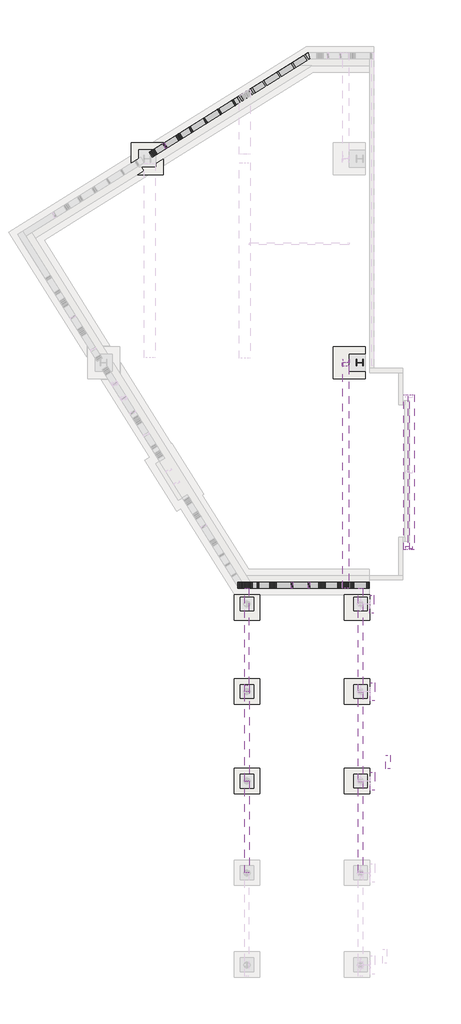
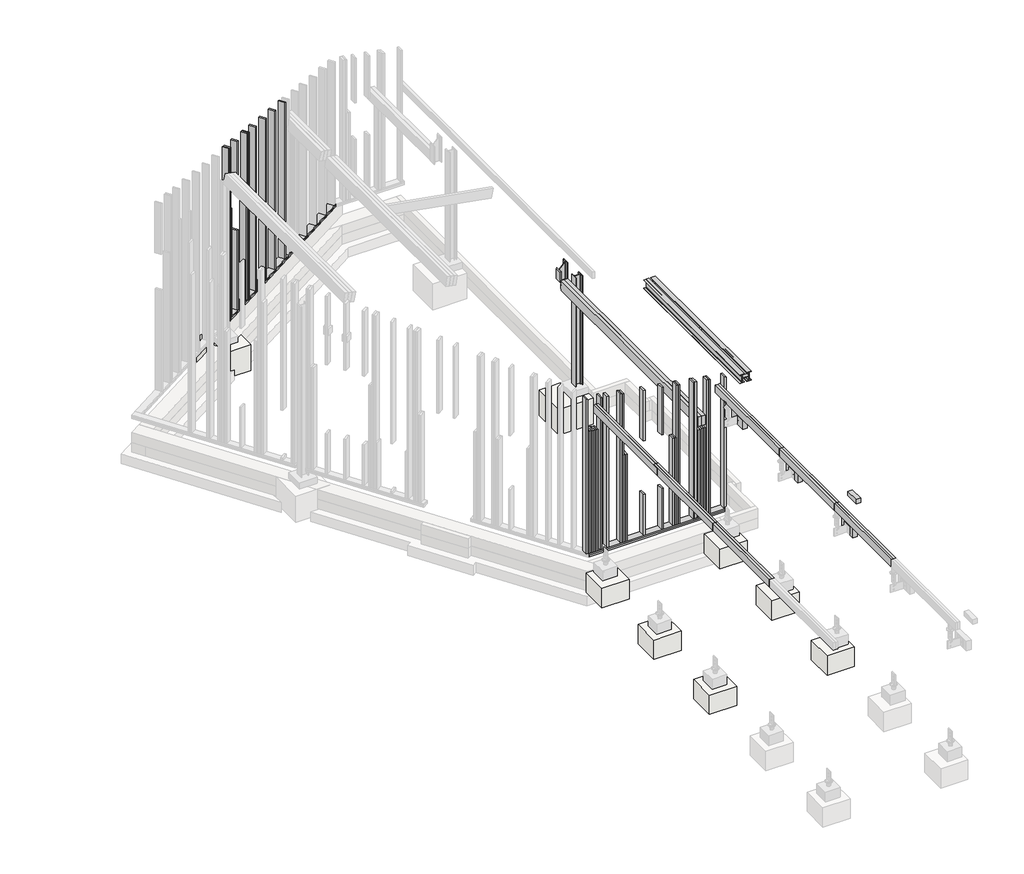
# One storey, part 3 of 4: 44 columns, 18 beams, 10 fasteners, 8 slabs.
"""IFC4 building model written with IfcOpenShell, lengths in millimetres."""

from ifc_helpers import new_model, si_unit, frame, origin, place, context, project, spatial, polyline, circle_curve, ellipse_curve, outline, extrude, faceted_brep, transform, mapped, element, save
from ifc_brep_helpers import plane_surface, revolved_surface, advanced_brep
from components import beam_100x100_20a64efb, beam_2no_50_x_175_2_x_50x175_2b7af52e, beam_2no_50_x_175_2_x_50x175_784defc4, beam_2no_50_x_175_2_x_50x175_441c8b70, beam_2no_50_x_175_2_x_50x175_f7083317, beam_2no_50_x_175_2_x_50x175_e2079f5a, beam_2no_50_x_175_2_x_50x175_51455c39, beam_38x140_6bea360a, chs_circular_hollow_sections_chs60_3x3_2_c089d770, ukb203x102x23_04439e79, ukc152x152x37_75c2c72e, column_base_plate_4_hole_ed_15mm_62b327aa, column_base_plate_4_hole_ed_15mm_4bd3c540, m_anchor_rod_with_anchor_plate_m_anchor_rod_with_anchor_bff3a3cc

model = new_model("IFC4")

# Units and contexts
model_context = context("Model", 3, world=origin())
ifc_project = project(units=[si_unit("LENGTHUNIT", "METRE", prefix="MILLI")], contexts=[model_context])

# Site, building, storey
site = spatial("IfcSite", under=ifc_project)
building = spatial("IfcBuilding", under=site)
storey = spatial("IfcBuildingStorey", under=building, Name="Ground Floor Plan Showing Foundations", Elevation=-93.0)

# Beams
placement = place(None, origin())
beam_100x100_shape = beam_100x100_20a64efb(model_context)
element("IfcBeam", 1, ObjectType="Graded Timber : 100x100", at=placement, inside=storey, context=model_context, shape_type="MappedRepresentation", body=[
    mapped(beam_100x100_shape, transform((-28447.9371107, 1648.5937113, 2897.0), x_axis=(0.0, 1.0, 0.0), y_axis=(-1.0, 0.0, 0.0), z_axis=(0.0, 0.0, 1.0))),
])
element("IfcBeam", 2, ObjectType="Graded Timber - 2No : 2 x 75x225", at=placement, inside=storey, context=model_context, shape_type="SweptSolid", body=[
    extrude(outline(polyline([(5737.2250167, 2427.0), (5737.2250167, 2647.0), (10976.6017132, 2647.0), (10976.6017132, 2612.0), (10954.6549517, 2612.0), (10954.6549517, 2560.5), (10976.6017132, 2560.5), (10976.6017132, 2461.7), (10954.6549517, 2461.7), (10954.6549517, 2427.0), (5737.2250167, 2427.0)])), frame((-29441.9371106, 0.0, 0.0), z_axis=(1.0, 0.0, 0.0), x_axis=(0.0, 1.0, 0.0)), (0.0, 0.0, 1.0), 75.0),
    extrude(outline(polyline([(5737.2250167, 2427.0), (5737.2250167, 2647.0), (10976.6017132, 2647.0), (10976.6017132, 2612.0), (10954.6549517, 2612.0), (10954.6549517, 2560.5), (10976.6017132, 2560.5), (10976.6017132, 2461.7), (10954.6549517, 2461.7), (10954.6549517, 2427.0), (5737.2250167, 2427.0)])), frame((-29516.9371106, 0.0, 0.0), z_axis=(1.0, 0.0, 0.0), x_axis=(0.0, 1.0, 0.0)), (0.0, 0.0, 1.0), 75.0),
])
beam_2no_50_x_175_2_x_50x175_shape = beam_2no_50_x_175_2_x_50x175_2b7af52e(model_context)
element("IfcBeam", 3, ObjectType="2No 50 x 175 : 2 x 50x175", at=placement, inside=storey, context=model_context, shape_type="MappedRepresentation", body=[
    mapped(beam_2no_50_x_175_2_x_50x175_shape, transform((-29067.1341292, 4329.1414041, 3177.0), x_axis=(0.0, -1.0, 0.0), y_axis=(1.0, 0.0, 0.0), z_axis=(0.0, 0.0, 1.0))),
])
beam_2no_50_x_175_2_x_50x175_2_shape = beam_2no_50_x_175_2_x_50x175_784defc4(model_context)
element("IfcBeam", 4, ObjectType="2No 50 x 175 : 2 x 50x175", at=placement, inside=storey, context=model_context, shape_type="MappedRepresentation", body=[
    mapped(beam_2no_50_x_175_2_x_50x175_2_shape, transform((-29067.1341292, 2250.2552931, 3177.0), x_axis=(0.0, -1.0, 0.0), y_axis=(1.0, 0.0, 0.0), z_axis=(0.0, 0.0, 1.0))),
])
beam_2no_50_x_175_2_x_50x175_3_shape = beam_2no_50_x_175_2_x_50x175_441c8b70(model_context)
element("IfcBeam", 5, ObjectType="2No 50 x 175 : 2 x 50x175", at=placement, inside=storey, context=model_context, shape_type="MappedRepresentation", body=[
    mapped(beam_2no_50_x_175_2_x_50x175_3_shape, transform((-29067.1341292, 123.869182, 3177.0), x_axis=(0.0, -1.0, 0.0), y_axis=(1.0, 0.0, 0.0), z_axis=(0.0, 0.0, 1.0))),
])
beam_2no_50_x_175_2_x_50x175_4_shape = beam_2no_50_x_175_2_x_50x175_f7083317(model_context)
element("IfcBeam", 6, ObjectType="2No 50 x 175 : 2 x 50x175", at=placement, inside=storey, context=model_context, shape_type="MappedRepresentation", body=[
    mapped(beam_2no_50_x_175_2_x_50x175_4_shape, transform((-31746.4559584, 4334.8226337, 3652.0), x_axis=(0.0, -1.0, 0.0), y_axis=(1.0, 0.0, 0.0), z_axis=(0.0, 0.0, 1.0))),
])
beam_2no_50_x_175_2_x_50x175_5_shape = beam_2no_50_x_175_2_x_50x175_e2079f5a(model_context)
element("IfcBeam", 7, ObjectType="2No 50 x 175 : 2 x 50x175", at=placement, inside=storey, context=model_context, shape_type="MappedRepresentation", body=[
    mapped(beam_2no_50_x_175_2_x_50x175_5_shape, transform((-31744.9559584, 2250.7376651, 3652.0), x_axis=(0.0, -1.0, 0.0), y_axis=(1.0, 0.0, 0.0), z_axis=(0.0, 0.0, 1.0))),
])
beam_2no_50_x_175_2_x_50x175_6_shape = beam_2no_50_x_175_2_x_50x175_51455c39(model_context)
element("IfcBeam", 8, ObjectType="2No 50 x 175 : 2 x 50x175", at=placement, inside=storey, context=model_context, shape_type="MappedRepresentation", body=[
    mapped(beam_2no_50_x_175_2_x_50x175_6_shape, transform((-31744.9559584, 116.6526965, 3652.0), x_axis=(0.0, -1.0, 0.0), y_axis=(1.0, 0.0, 0.0), z_axis=(0.0, 0.0, 1.0))),
])
element("IfcBeam", 9, ObjectType="Graded Timber : 38x140", at=placement, inside=storey, context=model_context, shape_type="SweptSolid", body=[
    extrude(outline(polyline([(-31943.5943838, 5736.5605791), (-31943.5943838, 5876.5605791), (-28887.9560255, 5876.5605791), (-28887.9560255, 5736.5605791), (-31943.5943838, 5736.5605791)])), frame((0.0, 0.0, 280.0), z_axis=(0.0, 0.0, 1.0), x_axis=(1.0, 0.0, 0.0)), (0.0, 0.0, 1.0), 38.0),
])
element("IfcBeam", 10, ObjectType="Graded Timber : 38x140", at=placement, inside=storey, context=model_context, shape_type="SweptSolid", body=[
    extrude(outline(polyline([(-31921.5857524, 5736.5605791), (-31921.5857524, 5876.5605791), (-28887.9739983, 5876.5605791), (-28887.9739983, 5736.5605791), (-31921.5857524, 5736.5605791)])), frame((0.0, 0.0, 242.0), z_axis=(0.0, 0.0, 1.0), x_axis=(1.0, 0.0, 0.0)), (0.0, 0.0, 1.0), 38.0),
])
element("IfcBeam", 11, ObjectType="Graded Timber : 38x140", at=placement, inside=storey, context=model_context, shape_type="Brep", body=[
    faceted_brep([(-33999.0412, 15889.7907502, 280.0), (-33999.0412, 15889.7907502, 318.0), (-34073.2292149, 16008.5179098, 318.0), (-34073.2292149, 16008.5179098, 280.0), (-30290.146325, 18207.3358606, 280.0), (-30290.146325, 18207.3358606, 318.0), (-30330.3164018, 18347.3279291, 318.0), (-30330.3126207, 18347.3218781, 280.0)], [[[0, 1, 2, 3]], [[1, 0, 4, 5]], [[2, 1, 5, 6]], [[3, 2, 6, 7]], [[0, 3, 7, 4]], [[5, 4, 7, 6]]]),
])
beam_38x140_shape = beam_38x140_6bea360a(model_context)
element("IfcBeam", 12, ObjectType="Graded Timber : 38x140", at=placement, inside=storey, context=model_context, shape_type="MappedRepresentation", body=[
    mapped(beam_38x140_shape, transform((-32163.9321424, 17119.0216909, 261.0), x_axis=(-0.8480511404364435, -0.5299143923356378, 0.0), y_axis=(0.0, 0.0, -1.0000000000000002), z_axis=(0.5299143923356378, -0.8480511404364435, 0.0))),
])
chs_circular_hollow_sections_chs60_3x3_2_shape = chs_circular_hollow_sections_chs60_3x3_2_c089d770(model_context)
element("IfcBeam", 13, ObjectType="CHS-Circular Hollow Sections : CHS60.3x3.2", at=placement, inside=storey, context=model_context, shape_type="MappedRepresentation", body=[
    mapped(chs_circular_hollow_sections_chs60_3x3_2_shape, transform((-27953.1871107, 6694.5605669, 2470.0), x_axis=(-1.0, 0.0, 0.0), y_axis=(0.0, -1.0, 0.0), z_axis=(0.0, 0.0, 1.0))),
])
element("IfcBeam", 14, ObjectType="Concrete-Rectangular Beam : 215 x 100mm", at=placement, inside=storey, context=model_context, shape_type="Brep", body=[
    faceted_brep([(-28862.9371107, 1407.544955, 2707.0), (-28762.9371107, 1407.544955, 2707.0), (-28762.9371107, 1407.544955, 2492.0), (-28862.9371107, 1407.544955, 2492.0), (-28862.9371107, 980.2449557, 2707.0), (-28862.9371107, 980.2449557, 2492.0), (-28762.9371107, 980.2449557, 2492.0), (-28762.9371107, 980.2449557, 2707.0), (-28862.9371107, 1198.5937113, 2492.0)], [[[0, 1, 2, 3]], [[4, 5, 6, 7]], [[1, 0, 4, 7]], [[2, 1, 7, 6]], [[3, 2, 6, 5, 8]], [[0, 3, 8, 5, 4]]]),
])
element("IfcBeam", 15, ObjectType="Concrete-Rectangular Beam : 215 x 100mm", at=placement, inside=storey, context=model_context, shape_type="SweptSolid", body=[
    extrude(outline(polyline([(-28877.9371107, 5575.2366997), (-28777.9371107, 5575.2366997), (-28777.9371107, 5147.9367003), (-28877.9371107, 5147.9367003), (-28877.9371107, 5575.2366997)])), frame((0.0, 0.0, 2492.0), z_axis=(0.0, 0.0, 1.0), x_axis=(1.0, 0.0, 0.0)), (0.0, 0.0, 1.0), 215.0),
])
element("IfcBeam", 16, ObjectType="Concrete-Rectangular Beam : 215 x 100mm", at=placement, inside=storey, context=model_context, shape_type="SweptSolid", body=[
    extrude(outline(polyline([(-28862.9371107, 3514.9776319), (-28762.9371107, 3514.9776319), (-28762.9371107, 3087.6776325), (-28862.9371107, 3087.6776325), (-28862.9371107, 3514.9776319)])), frame((0.0, 0.0, 2492.0), z_axis=(0.0, 0.0, 1.0), x_axis=(1.0, 0.0, 0.0)), (0.0, 0.0, 1.0), 215.0),
])
ukb203x102x23_shape = ukb203x102x23_04439e79(model_context)
element("IfcBeam", 17, ObjectType="UKB-UK Beams : UKB203x102x23", at=placement, inside=storey, context=model_context, shape_type="MappedRepresentation", body=[
    mapped(ukb203x102x23_shape, transform((-28028.1871107, 8474.5605669, 2470.0), x_axis=(0.0, -1.0, 0.0), y_axis=(1.0, 0.0, 0.0), z_axis=(0.0, 0.0, 1.0))),
])
element("IfcBeam", 18, ObjectType="UKB-UK Beams : UKB203x102x23", at=placement, inside=storey, context=model_context, shape_type="MappedRepresentation", body=[
    mapped(ukb203x102x23_shape, transform((-27878.1871107, 8474.5605669, 2470.0), x_axis=(0.0, -1.0, 0.0), y_axis=(1.0, 0.0, 0.0), z_axis=(0.0, 0.0, 1.0))),
])

# Columns
element("IfcColumn", 19, ObjectType="Timber : 38x140", at=placement, inside=storey, context=model_context, shape_type="Brep", body=[
    faceted_brep([(-32430.6953985, 17034.8738307, 318.0), (-32356.5073836, 16916.146671, 318.0), (-32388.7333269, 16896.0099241, 318.0), (-32462.9213419, 17014.7370838, 318.0), (-32356.5073836, 16916.146671, 4004.5955427), (-32430.6953985, 17034.8738307, 4004.5954221), (-32388.7333269, 16896.0099241, 4010.2778256), (-32462.9213419, 17014.7370838, 4010.277705)], [[[0, 1, 2, 3]], [[4, 1, 0, 5]], [[6, 2, 1, 4]], [[7, 3, 2, 6]], [[5, 0, 3, 7]], [[4, 5, 7, 6]]]),
])
element("IfcColumn", 20, ObjectType="Timber : 38x140", at=placement, inside=storey, context=model_context, shape_type="Brep", body=[
    faceted_brep([(-32769.9158547, 16822.9080738, 318.0), (-32695.7278398, 16704.1809141, 318.0), (-32727.9537831, 16684.0441672, 318.0), (-32802.141798, 16802.7713269, 318.0), (-32695.7278398, 16704.1809141, 4064.4090468), (-32769.9158547, 16822.9080738, 4064.4089262), (-32727.9537831, 16684.0441672, 4070.0913297), (-32802.141798, 16802.7713269, 4070.0912091)], [[[0, 1, 2, 3]], [[4, 1, 0, 5]], [[6, 2, 1, 4]], [[7, 3, 2, 6]], [[5, 0, 3, 7]], [[4, 5, 7, 6]]]),
])
element("IfcColumn", 21, ObjectType="Timber : 38x140", at=placement, inside=storey, context=model_context, shape_type="Brep", body=[
    faceted_brep([(-33109.1363109, 16610.9423168, 318.0), (-33034.9482959, 16492.2151572, 318.0), (-33067.1742393, 16472.0784103, 318.0), (-33141.3622542, 16590.8055699, 318.0), (-33034.9482959, 16492.2151572, 4124.2225509), (-33109.1363109, 16610.9423168, 4124.2224303), (-33067.1742393, 16472.0784103, 4129.9048338), (-33141.3622542, 16590.8055699, 4129.9047132)], [[[0, 1, 2, 3]], [[4, 1, 0, 5]], [[6, 2, 1, 4]], [[7, 3, 2, 6]], [[5, 0, 3, 7]], [[4, 5, 7, 6]]]),
])
element("IfcColumn", 22, ObjectType="Timber : 38x140", at=placement, inside=storey, context=model_context, shape_type="Brep", body=[
    faceted_brep([(-33349.8908326, 16460.5049067, 318.0), (-33275.7028177, 16341.777747, 318.0), (-33307.9287611, 16321.6410001, 318.0), (-33382.116776, 16440.3681598, 318.0), (-33275.7028177, 16341.777747, 4166.673854), (-33349.8908326, 16460.5049067, 4166.6737334), (-33307.9287611, 16321.6410001, 4172.3561369), (-33382.116776, 16440.3681598, 4172.3560163)], [[[0, 1, 2, 3]], [[4, 1, 0, 5]], [[6, 2, 1, 4]], [[7, 3, 2, 6]], [[5, 0, 3, 7]], [[4, 5, 7, 6]]]),
])
element("IfcColumn", 23, ObjectType="Timber : 38x140", at=placement, inside=storey, context=model_context, shape_type="SweptSolid", body=[
    extrude(outline(polyline([(3376.9946304, -28944.4371265), (318.0, -28944.4371265), (318.0, -28906.4371265), (3370.2942052, -28906.4371265), (3376.9946304, -28944.4371265)])), frame((0.0, 5736.5605791, 0.0), z_axis=(0.0, 1.0, 0.0), x_axis=(0.0, 0.0, 1.0)), (0.0, 0.0, 1.0), 140.0),
])
element("IfcColumn", 24, ObjectType="Timber : 38x140", at=placement, inside=storey, context=model_context, shape_type="SweptSolid", body=[
    extrude(outline(polyline([(-30040.9371107, 5876.5605791), (-30040.9371107, 5736.5605791), (-30078.9371107, 5736.5605791), (-30078.9371107, 5876.5605791), (-30040.9371107, 5876.5605791)])), frame((0.0, 0.0, 318.0), z_axis=(0.0, 0.0, 1.0), x_axis=(1.0, 0.0, 0.0)), (0.0, 0.0, 1.0), 2024.0),
])
element("IfcColumn", 25, ObjectType="Timber : 38x140", at=placement, inside=storey, context=model_context, shape_type="SweptSolid", body=[
    extrude(outline(polyline([(3620.8052084, -30327.155625), (2517.0, -30327.155625), (2517.0, -30289.155625), (3614.1047832, -30289.155625), (3620.8052084, -30327.155625)])), frame((0.0, 5736.5605791, 0.0), z_axis=(0.0, 1.0, 0.0), x_axis=(0.0, 0.0, 1.0)), (0.0, 0.0, 1.0), 140.0),
])
element("IfcColumn", 26, ObjectType="Timber : 38x140", at=placement, inside=storey, context=model_context, shape_type="SweptSolid", body=[
    extrude(outline(polyline([(3691.3360007, -30727.155625), (2517.0, -30727.155625), (2517.0, -30689.155625), (3684.6355755, -30689.155625), (3691.3360007, -30727.155625)])), frame((0.0, 5736.5605791, 0.0), z_axis=(0.0, 1.0, 0.0), x_axis=(0.0, 0.0, 1.0)), (0.0, 0.0, 1.0), 140.0),
])
element("IfcColumn", 27, ObjectType="Timber : 38x140", at=placement, inside=storey, context=model_context, shape_type="SweptSolid", body=[
    extrude(outline(polyline([(-31078.9371107, 5876.5605791), (-31078.9371107, 5736.5605791), (-31116.9371107, 5736.5605791), (-31116.9371107, 5876.5605791), (-31078.9371107, 5876.5605791)])), frame((0.0, 0.0, 318.0), z_axis=(0.0, 0.0, 1.0), x_axis=(1.0, 0.0, 0.0)), (0.0, 0.0, 1.0), 2024.0),
])
element("IfcColumn", 28, ObjectType="Timber : 38x140", at=placement, inside=storey, context=model_context, shape_type="SweptSolid", body=[
    extrude(outline(polyline([(3832.3975853, -31527.155625), (318.0, -31527.155625), (318.0, -31489.155625), (3825.69716, -31489.155625), (3832.3975853, -31527.155625)])), frame((0.0, 5736.5605791, 0.0), z_axis=(0.0, 1.0, 0.0), x_axis=(0.0, 0.0, 1.0)), (0.0, 0.0, 1.0), 140.0),
])
element("IfcColumn", 29, ObjectType="Timber : 38x140", at=placement, inside=storey, context=model_context, shape_type="SweptSolid", body=[
    extrude(outline(polyline([(3143.9301594, -31790.6015169), (318.0, -31790.6015169), (318.0, -31752.6015169), (3137.2298883, -31752.6015169), (3143.9301594, -31790.6015169)])), frame((0.0, 5736.5605791, 0.0), z_axis=(0.0, 1.0, 0.0), x_axis=(0.0, 0.0, 1.0)), (0.0, 0.0, 1.0), 140.0),
])
element("IfcColumn", 30, ObjectType="Timber : 38x140", at=placement, inside=storey, context=model_context, shape_type="SweptSolid", body=[
    extrude(outline(polyline([(3170.7312439, -31942.6015169), (318.0, -31942.6015169), (318.0, -31904.6015169), (3164.0309728, -31904.6015169), (3170.7312439, -31942.6015169)])), frame((0.0, 5736.5605791, 0.0), z_axis=(0.0, 1.0, 0.0), x_axis=(0.0, 0.0, 1.0)), (0.0, 0.0, 1.0), 140.0),
])
element("IfcColumn", 31, ObjectType="Timber : 38x140", at=placement, inside=storey, context=model_context, shape_type="SweptSolid", body=[
    extrude(outline(polyline([(-30689.155625, 5876.5605791), (-30689.155625, 5736.5605791), (-30727.155625, 5736.5605791), (-30727.155625, 5876.5605791), (-30689.155625, 5876.5605791)])), frame((0.0, 0.0, 318.0), z_axis=(0.0, 0.0, 1.0), x_axis=(1.0, 0.0, 0.0)), (0.0, 0.0, 1.0), 948.0),
])
element("IfcColumn", 32, ObjectType="Timber : 38x140", at=placement, inside=storey, context=model_context, shape_type="SweptSolid", body=[
    extrude(outline(polyline([(-30289.155625, 5876.5605791), (-30289.155625, 5736.5605791), (-30327.155625, 5736.5605791), (-30327.155625, 5876.5605791), (-30289.155625, 5876.5605791)])), frame((0.0, 0.0, 318.0), z_axis=(0.0, 0.0, 1.0), x_axis=(1.0, 0.0, 0.0)), (0.0, 0.0, 1.0), 948.0),
])
element("IfcColumn", 33, ObjectType="Timber : 38x140", at=placement, inside=storey, context=model_context, shape_type="Brep", body=[
    faceted_brep([(-31638.6005794, 5876.5602797, 318.0), (-31638.6016542, 5736.5602797, 318.0), (-31676.6016542, 5736.5605714, 318.0), (-31676.6005794, 5876.5605714, 318.0), (-31638.6016542, 5736.5602797, 3852.0485271), (-31638.6005794, 5876.5602797, 3852.0483376), (-31676.6016542, 5736.5605714, 3858.7489524), (-31676.6005794, 5876.5605714, 3858.7487629)], [[[0, 1, 2, 3]], [[4, 1, 0, 5]], [[6, 2, 1, 4]], [[7, 3, 2, 6]], [[5, 0, 3, 7]], [[4, 5, 7, 6]]]),
])
element("IfcColumn", 34, ObjectType="Timber : 38x140", at=placement, inside=storey, context=model_context, shape_type="SweptSolid", body=[
    extrude(outline(polyline([(3157.3307016, -31866.6015169), (318.0, -31866.6015169), (318.0, -31828.6015169), (3150.6304305, -31828.6015169), (3157.3307016, -31866.6015169)])), frame((0.0, 5736.5605791, 0.0), z_axis=(0.0, 1.0, 0.0), x_axis=(0.0, 0.0, 1.0)), (0.0, 0.0, 1.0), 140.0),
])
element("IfcColumn", 35, ObjectType="Timber : 38x140", at=placement, inside=storey, context=model_context, shape_type="SweptSolid", body=[
    extrude(outline(polyline([(3912.3523303, -31980.6015169), (318.0, -31980.6015169), (318.0, -31942.6015169), (3905.6519051, -31942.6015169), (3912.3523303, -31980.6015169)])), frame((0.0, 5741.560593, 0.0), z_axis=(0.0, 1.0, 0.0), x_axis=(0.0, 0.0, 1.0)), (0.0, 0.0, 1.0), 140.0),
])
element("IfcColumn", 36, ObjectType="Timber : 38x140", at=placement, inside=storey, context=model_context, shape_type="SweptSolid", body=[
    extrude(outline(polyline([(-33414.3427163, 16420.231408), (-33340.1547013, 16301.5042483), (-33372.3806447, 16281.3675014), (-33446.5686596, 16400.0946611), (-33414.3427163, 16420.231408)])), frame((0.0, 0.0, 318.0), z_axis=(0.0, 0.0, 1.0), x_axis=(1.0, 0.0, 0.0)), (0.0, 0.0, 1.0), 2524.0),
])
element("IfcColumn", 37, ObjectType="Timber : 38x140", at=placement, inside=storey, context=model_context, shape_type="SweptSolid", body=[
    extrude(outline(polyline([(3773.4658438, -31192.9371107), (318.0, -31192.9371107), (318.0, -31154.9371107), (3766.7654185, -31154.9371107), (3773.4658438, -31192.9371107)])), frame((0.0, 5736.5605791, 0.0), z_axis=(0.0, 1.0, 0.0), x_axis=(0.0, 0.0, 1.0)), (0.0, 0.0, 1.0), 140.0),
])
element("IfcColumn", 38, ObjectType="Timber : 38x140", at=placement, inside=storey, context=model_context, shape_type="SweptSolid", body=[
    extrude(outline(polyline([(3563.6367367, -30002.9371107), (318.0, -30002.9371107), (318.0, -29964.9371107), (3556.9363115, -29964.9371107), (3563.6367367, -30002.9371107)])), frame((0.0, 5736.5605791, 0.0), z_axis=(0.0, 1.0, 0.0), x_axis=(0.0, 0.0, 1.0)), (0.0, 0.0, 1.0), 140.0),
])
element("IfcColumn", 39, ObjectType="Timber : 38x140", at=placement, inside=storey, context=model_context, shape_type="Brep", body=[
    faceted_brep([(-33382.116544, 16440.3677885, 318.0), (-33307.928529, 16321.6406288, 318.0), (-33340.1544724, 16301.5038819, 318.0), (-33414.3424873, 16420.2310416, 318.0), (-33307.928529, 16321.6406288, 4172.3561372), (-33382.116544, 16440.3677885, 4172.3560166), (-33340.1544724, 16301.5038819, 4178.0384201), (-33414.3424873, 16420.2310416, 4178.0382995)], [[[0, 1, 2, 3]], [[4, 1, 0, 5]], [[2, 1, 4, 6]], [[5, 0, 3, 7]], [[4, 5, 7, 6]], [[3, 2, 6, 7]]]),
])
element("IfcColumn", 40, ObjectType="Timber : 38x140", at=placement, inside=storey, context=model_context, shape_type="SweptSolid", body=[
    extrude(outline(polyline([(3556.9363115, -29964.9371107), (318.0, -29964.9371107), (318.0, -29926.9371107), (3550.2358862, -29926.9371107), (3556.9363115, -29964.9371107)])), frame((0.0, 5736.5605791, 0.0), z_axis=(0.0, 1.0, 0.0), x_axis=(0.0, 0.0, 1.0)), (0.0, 0.0, 1.0), 140.0),
])
element("IfcColumn", 41, ObjectType="Timber : 38x140", at=placement, inside=storey, context=model_context, shape_type="SweptSolid", body=[
    extrude(outline(polyline([(3780.166269, -31230.9371107), (318.0, -31230.9371107), (318.0, -31192.9371107), (3773.4658438, -31192.9371107), (3780.166269, -31230.9371107)])), frame((0.0, 5736.5605791, 0.0), z_axis=(0.0, 1.0, 0.0), x_axis=(0.0, 0.0, 1.0)), (0.0, 0.0, 1.0), 140.0),
])
element("IfcColumn", 42, ObjectType="Timber : 38x140", at=placement, inside=storey, context=model_context, shape_type="SweptSolid", body=[
    extrude(outline(polyline([(-33955.398975, 16082.1454742), (-33881.2109601, 15963.4183146), (-33913.4369035, 15943.2815676), (-33987.6249184, 16062.0087273), (-33955.398975, 16082.1454742)])), frame((0.0, 0.0, 318.0), z_axis=(0.0, 0.0, 1.0), x_axis=(1.0, 0.0, 0.0)), (0.0, 0.0, 1.0), 2524.0),
])
element("IfcColumn", 43, ObjectType="Timber : 38x140", at=placement, inside=storey, context=model_context, shape_type="SweptSolid", body=[
    extrude(outline(polyline([(3164.0309728, -31904.6015169), (318.0, -31904.6015169), (318.0, -31866.6015169), (3157.3307016, -31866.6015169), (3164.0309728, -31904.6015169)])), frame((0.0, 5736.5605791, 0.0), z_axis=(0.0, 1.0, 0.0), x_axis=(0.0, 0.0, 1.0)), (0.0, 0.0, 1.0), 140.0),
])
element("IfcColumn", 44, ObjectType="Timber : 38x140", at=placement, inside=storey, context=model_context, shape_type="SweptSolid", body=[
    extrude(outline(polyline([(3150.6304305, -31828.6015169), (318.0, -31828.6015169), (318.0, -31790.6015169), (3143.9301594, -31790.6015169), (3150.6304305, -31828.6015169)])), frame((0.0, 5736.5605791, 0.0), z_axis=(0.0, 1.0, 0.0), x_axis=(0.0, 0.0, 1.0)), (0.0, 0.0, 1.0), 140.0),
])
element("IfcColumn", 45, ObjectType="Timber : 38x140", at=placement, inside=storey, context=model_context, shape_type="SweptSolid", body=[
    extrude(outline(polyline([(3137.2298883, -31752.6015169), (318.0, -31752.6015169), (318.0, -31714.6015169), (3130.5296172, -31714.6015169), (3137.2298883, -31752.6015169)])), frame((0.0, 5736.5605791, 0.0), z_axis=(0.0, 1.0, 0.0), x_axis=(0.0, 0.0, 1.0)), (0.0, 0.0, 1.0), 140.0),
])
element("IfcColumn", 46, ObjectType="Timber : 38x140", at=placement, inside=storey, context=model_context, shape_type="Brep", body=[
    faceted_brep([(-33987.6251729, 16062.0091347, 318.0), (-33913.437158, 15943.281975, 318.0), (-33945.6631013, 15923.1452281, 318.0), (-34019.8511163, 16041.8723878, 318.0), (-33913.437158, 15943.281975, 4279.123239), (-33987.6251729, 16062.0091347, 4279.1231184), (-33945.6631013, 15923.1452281, 4284.8055219), (-34019.8511163, 16041.8723878, 4284.8054013)], [[[0, 1, 2, 3]], [[4, 1, 0, 5]], [[6, 2, 1, 4]], [[7, 3, 2, 6]], [[5, 0, 3, 7]], [[4, 5, 7, 6]]]),
])
element("IfcColumn", 47, ObjectType="Timber : 38x140", at=placement, inside=storey, context=model_context, shape_type="Brep", body=[
    faceted_brep([(-34019.8511163, 16041.8723878, 318.0), (-33945.6631013, 15923.1452281, 318.0), (-33977.8890447, 15903.0084812, 318.0), (-34052.0770596, 16021.7356408, 318.0), (-33945.6631013, 15923.1452281, 4284.8055219), (-34019.8511163, 16041.8723878, 4284.8054013), (-33977.8890447, 15903.0084812, 4290.4878048), (-34052.0770596, 16021.7356408, 4290.4876841)], [[[0, 1, 2, 3]], [[4, 1, 0, 5]], [[6, 2, 1, 4]], [[7, 3, 2, 6]], [[5, 0, 3, 7]], [[4, 5, 7, 6]]]),
])
element("IfcColumn", 48, ObjectType="Timber : 38x140", at=placement, inside=storey, context=model_context, shape_type="Brep", body=[
    faceted_brep([(-33647.1566526, 16109.6703389, 3017.0), (-33679.382596, 16089.533592, 3017.0), (-33753.5706109, 16208.2607517, 3017.0), (-33721.3446676, 16228.3974986, 3017.0), (-33679.382596, 16089.533592, 4237.8532557), (-33647.1559932, 16109.670751, 4232.1709728), (-33753.5706109, 16208.2607517, 4237.8531351), (-33721.3446676, 16228.3974986, 4232.1708522)], [[[0, 1, 2, 3]], [[4, 1, 0, 5]], [[6, 2, 1, 4]], [[3, 2, 6, 7]], [[7, 6, 4, 5]], [[0, 3, 7, 5]]]),
])
element("IfcColumn", 49, ObjectType="Timber : 38x140", at=placement, inside=storey, context=model_context, shape_type="SweptSolid", body=[
    extrude(outline(polyline([(-33721.3446676, 16228.3974986), (-33647.1566526, 16109.6703389), (-33679.382596, 16089.533592), (-33753.5706109, 16208.2607517), (-33721.3446676, 16228.3974986)])), frame((0.0, 0.0, 318.0), z_axis=(0.0, 0.0, 1.0), x_axis=(1.0, 0.0, 0.0)), (0.0, 0.0, 1.0), 1848.0),
])
element("IfcColumn", 50, ObjectType="Timber : 38x140", at=placement, inside=storey, context=model_context, shape_type="SweptSolid", body=[
    extrude(outline(polyline([(-31116.9371107, 5876.5605791), (-31116.9371107, 5736.5605791), (-31154.9371107, 5736.5605791), (-31154.9371107, 5876.5605791), (-31116.9371107, 5876.5605791)])), frame((0.0, 0.0, 318.0), z_axis=(0.0, 0.0, 1.0), x_axis=(1.0, 0.0, 0.0)), (0.0, 0.0, 1.0), 2024.0),
])
element("IfcColumn", 51, ObjectType="Timber : 38x140", at=placement, inside=storey, context=model_context, shape_type="SweptSolid", body=[
    extrude(outline(polyline([(-30002.9371107, 5876.5605791), (-30002.9371107, 5736.5605791), (-30040.9371107, 5736.5605791), (-30040.9371107, 5876.5605791), (-30002.9371107, 5876.5605791)])), frame((0.0, 0.0, 318.0), z_axis=(0.0, 0.0, 1.0), x_axis=(1.0, 0.0, 0.0)), (0.0, 0.0, 1.0), 2024.0),
])
element("IfcColumn", 52, ObjectType="Timber : 38x140", at=placement, inside=storey, context=model_context, shape_type="SweptSolid", body=[
    extrude(outline(polyline([(3444.6160247, -29327.9371107), (318.0, -29327.9371107), (318.0, -29289.9371107), (3437.9155995, -29289.9371107), (3444.6160247, -29327.9371107)])), frame((0.0, 5736.5605791, 0.0), z_axis=(0.0, 1.0, 0.0), x_axis=(0.0, 0.0, 1.0)), (0.0, 0.0, 1.0), 140.0),
])
element("IfcColumn", 53, ObjectType="Timber : 38x140", at=placement, inside=storey, context=model_context, shape_type="SweptSolid", body=[
    extrude(outline(polyline([(-29441.9371107, 5876.5605791), (-29441.9371107, 5736.5605791), (-29479.9371107, 5736.5605791), (-29479.9371107, 5876.5605791), (-29441.9371107, 5876.5605791)])), frame((0.0, 0.0, 318.0), z_axis=(0.0, 0.0, 1.0), x_axis=(1.0, 0.0, 0.0)), (0.0, 0.0, 1.0), 2033.0),
])
element("IfcColumn", 54, ObjectType="Timber : 38x140", at=placement, inside=storey, context=model_context, shape_type="SweptSolid", body=[
    extrude(outline(polyline([(-29479.9371107, 5876.5605791), (-29479.9371107, 5736.5605791), (-29517.9371107, 5736.5605791), (-29517.9371107, 5876.5605791), (-29479.9371107, 5876.5605791)])), frame((0.0, 0.0, 318.0), z_axis=(0.0, 0.0, 1.0), x_axis=(1.0, 0.0, 0.0)), (0.0, 0.0, 1.0), 2033.0),
])
element("IfcColumn", 55, ObjectType="Timber : 38x140", at=placement, inside=storey, context=model_context, shape_type="SweptSolid", body=[
    extrude(outline(polyline([(-29403.9371107, 5876.5605791), (-29403.9371107, 5736.5605791), (-29441.9371107, 5736.5605791), (-29441.9371107, 5876.5605791), (-29403.9371107, 5876.5605791)])), frame((0.0, 0.0, 318.0), z_axis=(0.0, 0.0, 1.0), x_axis=(1.0, 0.0, 0.0)), (0.0, 0.0, 1.0), 2033.0),
])
element("IfcColumn", 56, ObjectType="Timber : 38x140", at=placement, inside=storey, context=model_context, shape_type="SweptSolid", body=[
    extrude(outline(polyline([(-29365.9371107, 5876.5605791), (-29365.9371107, 5736.5605791), (-29403.9371107, 5736.5605791), (-29403.9371107, 5876.5605791), (-29365.9371107, 5876.5605791)])), frame((0.0, 0.0, 318.0), z_axis=(0.0, 0.0, 1.0), x_axis=(1.0, 0.0, 0.0)), (0.0, 0.0, 1.0), 2033.0),
])
element("IfcColumn", 57, ObjectType="Timber : 38x140", at=placement, inside=storey, context=model_context, shape_type="SweptSolid", body=[
    extrude(outline(polyline([(3491.5190016, -29593.9371107), (318.0, -29593.9371107), (318.0, -29555.9371107), (3484.8185763, -29555.9371107), (3491.5190016, -29593.9371107)])), frame((0.0, 5736.5605791, 0.0), z_axis=(0.0, 1.0, 0.0), x_axis=(0.0, 0.0, 1.0)), (0.0, 0.0, 1.0), 140.0),
])
element("IfcColumn", 58, ObjectType="Timber : 38x140", at=placement, inside=storey, context=model_context, shape_type="SweptSolid", body=[
    extrude(outline(polyline([(3498.2194269, -29631.9371107), (318.0, -29631.9371107), (318.0, -29593.9371107), (3491.5190016, -29593.9371107), (3498.2194269, -29631.9371107)])), frame((0.0, 5736.5605791, 0.0), z_axis=(0.0, 1.0, 0.0), x_axis=(0.0, 0.0, 1.0)), (0.0, 0.0, 1.0), 140.0),
])
element("IfcColumn", 59, ObjectType="Timber : 38x140", at=placement, inside=storey, context=model_context, shape_type="SweptSolid", body=[
    extrude(outline(polyline([(3437.9155995, -29289.9371107), (318.0, -29289.9371107), (318.0, -29251.9371107), (3431.2151742, -29251.9371107), (3437.9155995, -29289.9371107)])), frame((0.0, 5736.5605791, 0.0), z_axis=(0.0, 1.0, 0.0), x_axis=(0.0, 0.0, 1.0)), (0.0, 0.0, 1.0), 140.0),
])
element("IfcColumn", 60, ObjectType="Timber : 38x140", at=placement, inside=storey, context=model_context, shape_type="Brep", body=[
    faceted_brep([(-32091.4761635, 17246.8415418, 318.0), (-32017.2881485, 17128.1143822, 318.0), (-32049.5140919, 17107.9776353, 318.0), (-32123.7021068, 17226.7047949, 318.0), (-32017.2881485, 17128.1143822, 3944.7820389), (-32091.4761635, 17246.8415418, 3944.7819183), (-32049.5140919, 17107.9776353, 3950.4643218), (-32123.7021068, 17226.7047949, 3950.4642012)], [[[0, 1, 2, 3]], [[4, 1, 0, 5]], [[6, 2, 1, 4]], [[7, 3, 2, 6]], [[5, 0, 3, 7]], [[4, 5, 7, 6]]]),
])
element("IfcColumn", 61, ObjectType="UKC-UK Columns-Column : UKC152x152x37", at=placement, inside=storey, context=model_context, shape_type="AdvancedBrep", body=[
    advanced_brep(
    [(-29375.6371106, 10974.6549517, 3003.9884334), (-29364.1371106, 10974.6549517, 3016.625972), (-29364.1371106, 11129.0549517, 3016.625972), (-29375.6371106, 11129.0549517, 3003.9884334), (-29375.6371106, 11063.4549517, 3003.9884334), (-29383.2371106, 11055.8549517, 2995.6366687), (-29506.8371106, 11055.8549517, 2859.8106009), (-29514.4371106, 11063.4549517, 2851.4588362), (-29514.4371106, 11129.0549517, 2851.4588362), (-29525.9371106, 11129.0549517, 2838.8212975), (-29525.9371106, 10974.6549517, 2838.8212975), (-29514.4371106, 10974.6549517, 2851.4588362), (-29514.4371106, 11040.2549517, 2851.4588362), (-29506.8371106, 11047.8549517, 2859.8106009), (-29383.2371106, 11047.8549517, 2995.6366687), (-29375.6371106, 11040.2549517, 3003.9884334), (-29364.1371106, 10974.6549517, 2602.0), (-29375.6371106, 10974.6549517, 2602.0), (-29375.6371106, 11040.2549517, 2602.0), (-29383.2371106, 11047.8549517, 2602.0), (-29506.8371106, 11047.8549517, 2602.0), (-29514.4371106, 11040.2549517, 2602.0), (-29514.4371106, 10974.6549517, 2602.0), (-29525.9371106, 10974.6549517, 2602.0), (-29525.9371106, 11129.0549517, 2602.0), (-29514.4371106, 11129.0549517, 2602.0), (-29514.4371106, 11063.4549517, 2602.0), (-29506.8371106, 11055.8549517, 2602.0), (-29383.2371106, 11055.8549517, 2602.0), (-29375.6371106, 11063.4549517, 2602.0), (-29375.6371106, 11129.0549517, 2602.0), (-29364.1371106, 11129.0549517, 2602.0)],
    [
        (0, 1),
        (1, 2),
        (2, 3),
        (3, 4),
        (4, 5, ellipse_curve(frame((-29383.2371106, 11063.4549517, 2995.6366687), z_axis=(0.739609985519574, 0.0, -0.6730357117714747), x_axis=(-0.6730357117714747, 0.0, -0.7396099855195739)), 11.29212, 7.6)),
        (5, 6),
        (6, 7, ellipse_curve(frame((-29506.8371106, 11063.4549517, 2859.8106009), z_axis=(0.739609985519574, 0.0, -0.6730357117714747), x_axis=(-0.6730357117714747, 0.0, -0.7396099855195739)), 11.29212, 7.6)),
        (7, 8),
        (8, 9),
        (9, 10),
        (10, 11),
        (11, 12),
        (12, 13, ellipse_curve(frame((-29506.8371106, 11040.2549517, 2859.8106009), z_axis=(0.739609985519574, 0.0, -0.6730357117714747), x_axis=(-0.6730357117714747, 0.0, -0.7396099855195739)), 11.29212, 7.6)),
        (13, 14),
        (14, 15, ellipse_curve(frame((-29383.2371106, 11040.2549517, 2995.6366687), z_axis=(0.739609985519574, 0.0, -0.6730357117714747), x_axis=(-0.6730357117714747, 0.0, -0.7396099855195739)), 11.29212, 7.6)),
        (15, 0),
        (16, 17),
        (17, 18),
        (18, 19, circle_curve(frame((-29383.2371106, 11040.2549517, 2602.0), z_axis=(0.0, 0.0, 1.0), x_axis=(0.0, -0.9999999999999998, 0.0)), 7.6)),
        (19, 20),
        (20, 21, circle_curve(frame((-29506.8371106, 11040.2549517, 2602.0), z_axis=(0.0, 0.0, 1.0), x_axis=(0.0, -0.9999999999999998, 0.0)), 7.6)),
        (21, 22),
        (22, 23),
        (23, 24),
        (24, 25),
        (25, 26),
        (26, 27, circle_curve(frame((-29506.8371106, 11063.4549517, 2602.0), z_axis=(0.0, 0.0, 1.0), x_axis=(0.0, -0.9999999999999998, 0.0)), 7.6)),
        (27, 28),
        (28, 29, circle_curve(frame((-29383.2371106, 11063.4549517, 2602.0), z_axis=(0.0, 0.0, 1.0), x_axis=(0.0, -0.9999999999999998, 0.0)), 7.6)),
        (29, 30),
        (30, 31),
        (31, 16),
        (0, 17),
        (16, 1),
        (15, 18),
        (14, 19),
        (13, 20),
        (12, 21),
        (11, 22),
        (10, 23),
        (9, 24),
        (8, 25),
        (7, 26),
        (6, 27),
        (5, 28),
        (4, 29),
        (3, 30),
        (2, 31),
    ],
    [
        plane_surface(frame((-29532.7683786, 15854.423117, 2831.3143051), z_axis=(-0.739609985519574, 0.0, 0.6730357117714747), x_axis=(-0.6730357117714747, 0.0, -0.739609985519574))),
        plane_surface(frame((-29364.1371106, 11129.0549517, 2602.0), z_axis=(0.0, 0.0, -1.0), x_axis=(0.0, -1.0, 0.0))),
        plane_surface(frame((-29375.6371106, 10974.6549517, 3017.0), z_axis=(0.0, -1.0, 0.0), x_axis=(0.0, 0.0, -1.0))),
        plane_surface(frame((-29375.6371106, 11040.2549517, 3017.0), z_axis=(-1.0, 0.0, 0.0), x_axis=(0.0, 0.0, -1.0))),
        revolved_surface(polyline([(-29383.2371106, 11032.6549517, 2602.0), (-29383.2371106, 11032.6549517, 3003.988433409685)]), (-29383.2371106, 11040.2549517, 2602.0), (0.0, 0.0, -1.0)),
        plane_surface(frame((-29506.8371106, 11047.8549517, 3017.0), z_axis=(0.0, -1.0, 0.0), x_axis=(0.0, 0.0, -1.0))),
        revolved_surface(polyline([(-29506.8371106, 11032.6549517, 2602.0), (-29506.8371106, 11032.6549517, 2868.1623656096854)]), (-29506.8371106, 11040.2549517, 2602.0), (0.0, 0.0, -1.0)),
        plane_surface(frame((-29514.4371106, 10974.6549517, 3017.0), z_axis=(1.0, 0.0, 0.0), x_axis=(0.0, 0.0, -1.0))),
        plane_surface(frame((-29525.9371106, 10974.6549517, 3017.0), z_axis=(0.0, -1.0, 0.0), x_axis=(0.0, 0.0, -1.0))),
        plane_surface(frame((-29525.9371106, 11129.0549517, 3017.0), z_axis=(-1.0, 0.0, 0.0), x_axis=(0.0, 0.0, -1.0))),
        plane_surface(frame((-29514.4371106, 11129.0549517, 3017.0), z_axis=(0.0, 1.0, 0.0), x_axis=(0.0, 0.0, -1.0))),
        plane_surface(frame((-29514.4371106, 11063.4549517, 3017.0), z_axis=(1.0, 0.0, 0.0), x_axis=(0.0, 0.0, -1.0))),
        revolved_surface(polyline([(-29506.8371106, 11055.8549517, 2602.0), (-29506.8371106, 11055.8549517, 2868.1623656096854)]), (-29506.8371106, 11063.4549517, 2602.0), (0.0, 0.0, -1.0)),
        plane_surface(frame((-29383.2371106, 11055.8549517, 3017.0), z_axis=(0.0, 1.0, 0.0), x_axis=(0.0, 0.0, -1.0))),
        revolved_surface(polyline([(-29383.2371106, 11055.8549517, 2602.0), (-29383.2371106, 11055.8549517, 3003.988433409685)]), (-29383.2371106, 11063.4549517, 2602.0), (0.0, 0.0, -1.0)),
        plane_surface(frame((-29375.6371106, 11129.0549517, 3017.0), z_axis=(-1.0, 0.0, 0.0), x_axis=(0.0, 0.0, -1.0))),
        plane_surface(frame((-29364.1371106, 11129.0549517, 3017.0), z_axis=(0.0, 1.0, 0.0), x_axis=(0.0, 0.0, -1.0))),
        plane_surface(frame((-29364.1371106, 10974.6549517, 3017.0), z_axis=(1.0, 0.0, 0.0), x_axis=(0.0, 0.0, -1.0))),
    ],
    [
        (0, [[1, 2, 3, 4, 5, 6, 7, 8, 9, 10, 11, 12, 13, 14, 15, 16]]),
        (1, [[17, 18, 19, 20, 21, 22, 23, 24, 25, 26, 27, 28, 29, 30, 31, 32]]),
        (2, [[33, -17, 34, -1]]),
        (3, [[35, -18, -33, -16]]),
        (4, [[36, -19, -35, -15]]),
        (5, [[37, -20, -36, -14]]),
        (6, [[38, -21, -37, -13]]),
        (7, [[39, -22, -38, -12]]),
        (8, [[40, -23, -39, -11]]),
        (9, [[41, -24, -40, -10]]),
        (10, [[42, -25, -41, -9]]),
        (11, [[43, -26, -42, -8]]),
        (12, [[44, -27, -43, -7]]),
        (13, [[45, -28, -44, -6]]),
        (14, [[46, -29, -45, -5]]),
        (15, [[47, -30, -46, -4]]),
        (16, [[48, -31, -47, -3]]),
        (17, [[-34, -32, -48, -2]]),
    ],
),
])
ukc152x152x37_shape = ukc152x152x37_75c2c72e(model_context)
element("IfcColumn", 62, ObjectType="UKC-UK Columns-Column : UKC152x152x37", at=placement, inside=storey, context=model_context, shape_type="MappedRepresentation", body=[
    mapped(ukc152x152x37_shape, transform((-29112.6712085, 11051.8549517, 0.0), x_axis=(0.0, -0.9999999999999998, 0.0), y_axis=(0.9999999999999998, 0.0, 0.0), z_axis=(0.0, 0.0, 1.0))),
])

# Fasteners
column_base_plate_4_hole_ed_15mm_shape = column_base_plate_4_hole_ed_15mm_62b327aa(model_context)
element("IfcFastener", 63, ObjectType="Column Base Plate-4 Hole_ed : 15mm", at=placement, inside=storey, context=model_context, shape_type="MappedRepresentation", body=[
    mapped(column_base_plate_4_hole_ed_15mm_shape, transform((-29156.9712085, 11051.8549517, -53.0), x_axis=(0.0, 1.0, 0.0), y_axis=(1.0, 0.0, 0.0), z_axis=(0.0, 0.0, -1.0))),
])
column_base_plate_4_hole_ed_15mm_2_shape = column_base_plate_4_hole_ed_15mm_4bd3c540(model_context)
element("IfcFastener", 64, ObjectType="Column Base Plate-4 Hole_ed : 15mm", at=placement, inside=storey, context=model_context, shape_type="MappedRepresentation", body=[
    mapped(column_base_plate_4_hole_ed_15mm_2_shape, transform((-34113.2346198, 15854.423117, -53.0), x_axis=(0.0, 1.0, 0.0), y_axis=(1.0, 0.0, 0.0), z_axis=(0.0, 0.0, -1.0))),
])
m_anchor_rod_with_anchor_plate_m_anchor_rod_with_anchor_shape = m_anchor_rod_with_anchor_plate_m_anchor_rod_with_anchor_bff3a3cc(model_context)
element("IfcFastener", 65, ObjectType="M_Anchor Rod with Anchor Plate : M_Anchor Rod with Anchor Plate", at=placement, inside=storey, context=model_context, shape_type="MappedRepresentation", body=[
    mapped(m_anchor_rod_with_anchor_plate_m_anchor_rod_with_anchor_shape, transform((-34213.2346198, 15954.423117, -33.95), x_axis=(1.0, 0.0, 0.0), y_axis=(0.0, 1.0, 0.0), z_axis=(0.0, 0.0, 1.0))),
])
element("IfcFastener", 66, ObjectType="M_Anchor Rod with Anchor Plate : M_Anchor Rod with Anchor Plate", at=placement, inside=storey, context=model_context, shape_type="MappedRepresentation", body=[
    mapped(m_anchor_rod_with_anchor_plate_m_anchor_rod_with_anchor_shape, transform((-34213.2346198, 15754.423117, -33.95), x_axis=(1.0, 0.0, 0.0), y_axis=(0.0, 1.0, 0.0), z_axis=(0.0, 0.0, 1.0))),
])
element("IfcFastener", 67, ObjectType="M_Anchor Rod with Anchor Plate : M_Anchor Rod with Anchor Plate", at=placement, inside=storey, context=model_context, shape_type="MappedRepresentation", body=[
    mapped(m_anchor_rod_with_anchor_plate_m_anchor_rod_with_anchor_shape, transform((-34013.2346198, 15954.423117, -33.95), x_axis=(1.0, 0.0, 0.0), y_axis=(0.0, 1.0, 0.0), z_axis=(0.0, 0.0, 1.0))),
])
element("IfcFastener", 68, ObjectType="M_Anchor Rod with Anchor Plate : M_Anchor Rod with Anchor Plate", at=placement, inside=storey, context=model_context, shape_type="MappedRepresentation", body=[
    mapped(m_anchor_rod_with_anchor_plate_m_anchor_rod_with_anchor_shape, transform((-34013.2346198, 15754.423117, -33.95), x_axis=(1.0, 0.0, 0.0), y_axis=(0.0, 1.0, 0.0), z_axis=(0.0, 0.0, 1.0))),
])
element("IfcFastener", 69, ObjectType="M_Anchor Rod with Anchor Plate : M_Anchor Rod with Anchor Plate", at=placement, inside=storey, context=model_context, shape_type="MappedRepresentation", body=[
    mapped(m_anchor_rod_with_anchor_plate_m_anchor_rod_with_anchor_shape, transform((-29256.9712085, 11151.8549517, -33.95), x_axis=(1.0, 0.0, 0.0), y_axis=(0.0, 1.0, 0.0), z_axis=(0.0, 0.0, 1.0))),
])
element("IfcFastener", 70, ObjectType="M_Anchor Rod with Anchor Plate : M_Anchor Rod with Anchor Plate", at=placement, inside=storey, context=model_context, shape_type="MappedRepresentation", body=[
    mapped(m_anchor_rod_with_anchor_plate_m_anchor_rod_with_anchor_shape, transform((-29256.9712085, 10951.8549517, -33.95), x_axis=(1.0, 0.0, 0.0), y_axis=(0.0, 1.0, 0.0), z_axis=(0.0, 0.0, 1.0))),
])
element("IfcFastener", 71, ObjectType="M_Anchor Rod with Anchor Plate : M_Anchor Rod with Anchor Plate", at=placement, inside=storey, context=model_context, shape_type="MappedRepresentation", body=[
    mapped(m_anchor_rod_with_anchor_plate_m_anchor_rod_with_anchor_shape, transform((-29096.9712085, 11151.8549517, -33.95), x_axis=(1.0, 0.0, 0.0), y_axis=(0.0, 1.0, 0.0), z_axis=(0.0, 0.0, 1.0))),
])
element("IfcFastener", 72, ObjectType="M_Anchor Rod with Anchor Plate : M_Anchor Rod with Anchor Plate", at=placement, inside=storey, context=model_context, shape_type="MappedRepresentation", body=[
    mapped(m_anchor_rod_with_anchor_plate_m_anchor_rod_with_anchor_shape, transform((-29096.9712085, 10951.8549517, -33.95), x_axis=(1.0, 0.0, 0.0), y_axis=(0.0, 1.0, 0.0), z_axis=(0.0, 0.0, 1.0))),
])

# Slabs
element("IfcSlab", 73, ObjectType="Footing-Strip : 600 x 600 x 450mm", at=placement, inside=storey, context=model_context, shape_type="SweptSolid", body=[
    extrude(outline(polyline([(-29477.9371107, 1499.630571), (-28877.9371107, 1499.630571), (-28877.9371107, 899.630571), (-29477.9371107, 899.630571), (-29477.9371107, 1499.630571)])), frame((0.0, 0.0, -443.0), z_axis=(0.0, 0.0, 1.0), x_axis=(1.0, 0.0, 0.0)), (0.0, 0.0, 1.0), 450.0),
])
element("IfcSlab", 74, ObjectType="Footing-Strip : 600 x 600 x 450mm", at=placement, inside=storey, context=model_context, shape_type="SweptSolid", body=[
    extrude(outline(polyline([(-29477.9371107, 3607.0632478), (-28877.9371107, 3607.0632478), (-28877.9371107, 3007.0632478), (-29477.9371107, 3007.0632478), (-29477.9371107, 3607.0632478)])), frame((0.0, 0.0, -443.0), z_axis=(0.0, 0.0, 1.0), x_axis=(1.0, 0.0, 0.0)), (0.0, 0.0, 1.0), 450.0),
])
element("IfcSlab", 75, ObjectType="Footing-Strip : 600 x 600 x 450mm", at=placement, inside=storey, context=model_context, shape_type="SweptSolid", body=[
    extrude(outline(polyline([(-29477.9371107, 5587.0605711), (-28877.9371107, 5587.0605711), (-28877.9371107, 4987.0605711), (-29477.9371107, 4987.0605711), (-29477.9371107, 5587.0605711)])), frame((0.0, 0.0, -443.0), z_axis=(0.0, 0.0, 1.0), x_axis=(1.0, 0.0, 0.0)), (0.0, 0.0, 1.0), 450.0),
])
element("IfcSlab", 76, ObjectType="Footing-Strip : 600 x 600 x 450mm", at=placement, inside=storey, context=model_context, shape_type="SweptSolid", body=[
    extrude(outline(polyline([(-32069.9559584, 1496.80418), (-31469.9559584, 1496.80418), (-31469.9559584, 896.80418), (-32069.9559584, 896.80418), (-32069.9559584, 1496.80418)])), frame((0.0, 0.0, -443.0), z_axis=(0.0, 0.0, 1.0), x_axis=(1.0, 0.0, 0.0)), (0.0, 0.0, 1.0), 450.0),
])
element("IfcSlab", 77, ObjectType="Footing-Strip : 600 x 600 x 450mm", at=placement, inside=storey, context=model_context, shape_type="SweptSolid", body=[
    extrude(outline(polyline([(-32069.9559584, 3607.0632478), (-31469.9559584, 3607.0632478), (-31469.9559584, 3007.0632478), (-32069.9559584, 3007.0632478), (-32069.9559584, 3607.0632478)])), frame((0.0, 0.0, -443.0), z_axis=(0.0, 0.0, 1.0), x_axis=(1.0, 0.0, 0.0)), (0.0, 0.0, 1.0), 450.0),
])
element("IfcSlab", 78, ObjectType="Footing-Strip : 600 x 600 x 450mm", at=placement, inside=storey, context=model_context, shape_type="SweptSolid", body=[
    extrude(outline(polyline([(-32069.9559584, 5587.0605711), (-31469.9559584, 5587.0605711), (-31469.9559584, 4987.0605711), (-32069.9559584, 4987.0605711), (-32069.9559584, 5587.0605711)])), frame((0.0, 0.0, -443.0), z_axis=(0.0, 0.0, 1.0), x_axis=(1.0, 0.0, 0.0)), (0.0, 0.0, 1.0), 450.0),
])
element("IfcSlab", 79, ObjectType="Footing-Strip : 750 x 750 x 600mm", at=placement, inside=storey, context=model_context, shape_type="SweptSolid", body=[
    extrude(outline(polyline([(-29731.9712085, 11426.8549517), (-28981.9712085, 11426.8549517), (-28981.9712085, 10676.8549517), (-29731.9712085, 10676.8549517), (-29731.9712085, 11426.8549517)])), frame((0.0, 0.0, -693.0), z_axis=(0.0, 0.0, 1.0), x_axis=(1.0, 0.0, 0.0)), (0.0, 0.0, 1.0), 600.0),
])
element("IfcSlab", 80, ObjectType="Footing-Strip : 750 x 750 x 600mm", at=placement, inside=storey, context=model_context, shape_type="SweptSolid", body=[
    extrude(outline(polyline([(-34488.2346198, 16229.423117), (-33738.2346198, 16229.423117), (-33738.2346198, 15479.423117), (-34488.2346198, 15479.423117), (-34488.2346198, 16229.423117)])), frame((0.0, 0.0, -693.0), z_axis=(0.0, 0.0, 1.0), x_axis=(1.0, 0.0, 0.0)), (0.0, 0.0, 1.0), 600.0),
])

save(model, "model.ifc")
